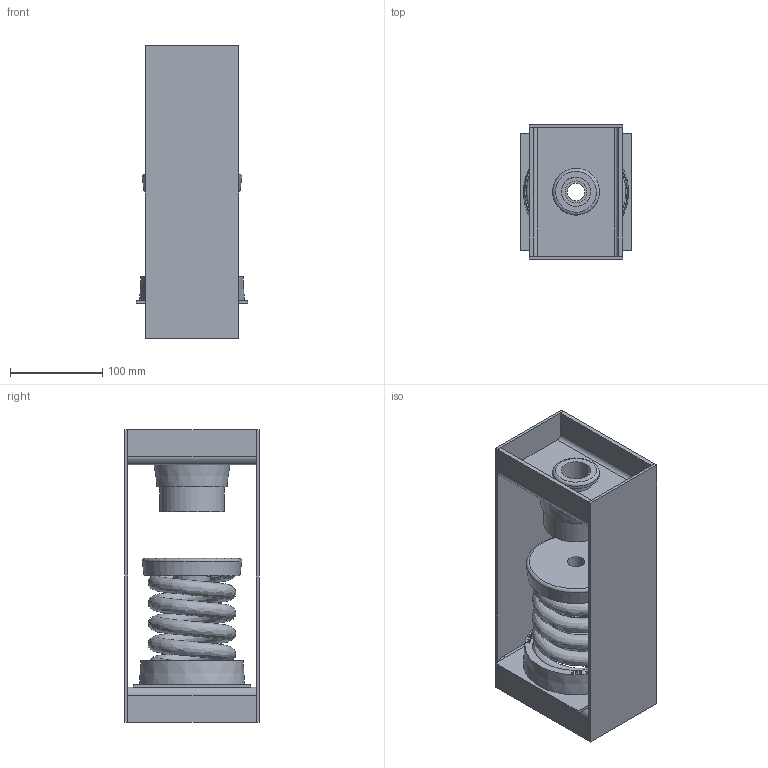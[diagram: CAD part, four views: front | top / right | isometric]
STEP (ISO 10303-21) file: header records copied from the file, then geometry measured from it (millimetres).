
FILE_DESCRIPTION((''),'2;1');
FILE_NAME('C:\2012_Work\Designs\exports\30N\30N-D-2150.stp','2013-06-27T14:32:29',('KShiels'),(''),'Autodesk Inventor 2012','Autodesk Inventor 2012','');
FILE_SCHEMA(('AUTOMOTIVE_DESIGN { 1 0 10303 214 1 1 1 1 }'));
Length unit declared in the file: inch
Products named in the file (15): 30N-D-2150; A-15145-7 30N-D WOS; A15145-7 A(.125x4x12; A-15145-7 D .125x4; A-20470-6R HDCS ELEMENT; A-20470-6C; A-20470-6B; A-20470-6A; A-15143-2R LDA HANGER CUP 3; A-15143-2R HANGER CUP 3; A-15143-2R WASHER 3; A-12865 SPRING CASTING HANGER TOP CUP 3; A-15145-7_B TOP FORMED CHANNEL; A-15145-7_C BOTTOM FORMED CHANNEL; SPRING 30D-2150 (PURPLE)
Assembly tree (15 placements, depth 4):
  30N-D-2150
    A-15145-7 30N-D WOS
      A15145-7 A(.125x4x12  x2
      A-15145-7 D .125x4
      A-20470-6R HDCS ELEMENT
        A-20470-6C
        A-20470-6B
        A-20470-6A
      A-15143-2R LDA HANGER CUP 3
        A-15143-2R HANGER CUP 3
        A-15143-2R WASHER 3
      A-12865 SPRING CASTING HANGER TOP CUP 3
      A-15145-7_B TOP FORMED CHANNEL
      A-15145-7_C BOTTOM FORMED CHANNEL
    SPRING 30D-2150 (PURPLE)
Bounding box: 120.65 x 146.05 x 317.5 mm (x, y, z)
Volume: 1115045.2 mm3; surface area: 460885.1 mm2
Topology: 12 solids, 12 shells, 1206 faces, 3116 edges, 2066 vertices
Faces by surface type: plane 832, bspline 334, cylinder 33, cone 5, torus 2
Full cylindrical faces by diameter (mm): 19.05 x1, 23.813 x1, 31.75 x1, 31.996 x1, 34.925 x1, 36.8 x1, 38.1 x2, 50.8 x1, 60.325 x1, 63.5 x3, 66.675 x2, 69.85 x4, 74.613 x1, 74.9 x1, 94.456 x1, 97.631 x1, 101.6 x2
Entity records: 41576 total; most frequent: CARTESIAN_POINT 14093, ORIENTED_EDGE 6138, DIRECTION 4269, EDGE_CURVE 3069, VECTOR 2321, LINE 2321, VERTEX_POINT 2055, EDGE_LOOP 1382
